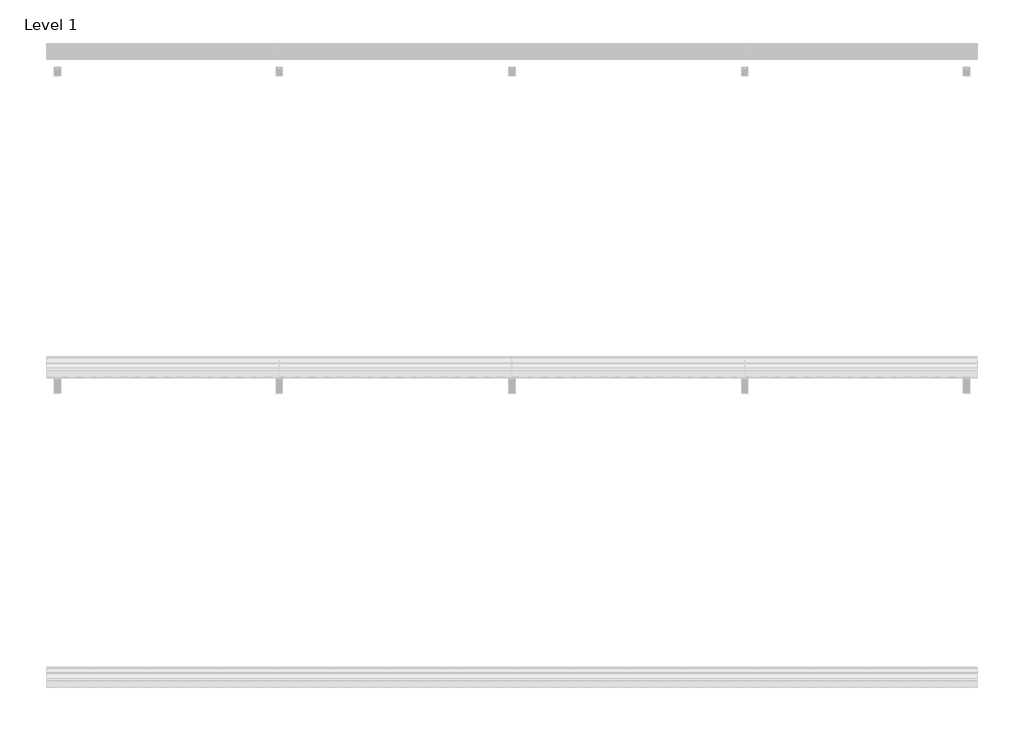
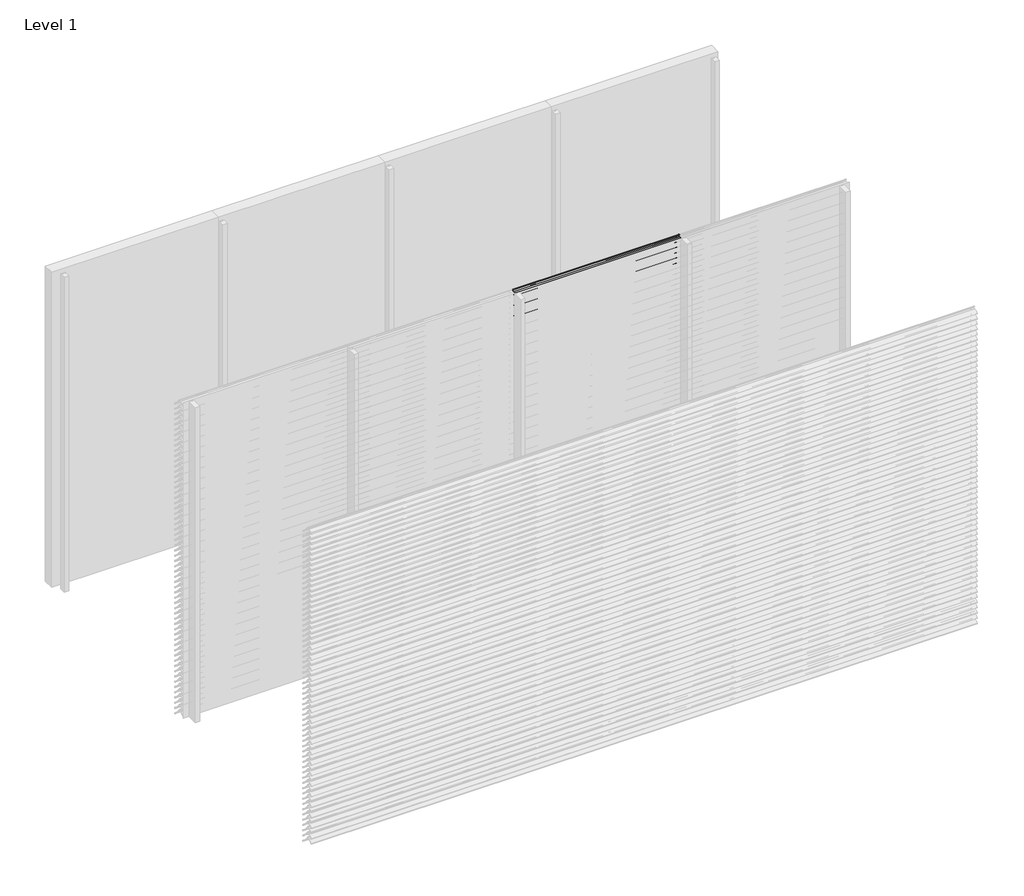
# One storey, part 64 of 173: 18 proxies.
"""IFC4 building model written with IfcOpenShell, lengths in millimetres."""

from ifc_helpers import new_model, si_unit, point, frame, frame_2d, origin, place, context, project, spatial, polyline, circle_curve, trimmed, segment, composite_curve, outline, extrude, element, save

model = new_model("IFC4")

# Units and contexts
model_context = context("Model", 3, world=origin())
ifc_project = project(units=[si_unit("LENGTHUNIT", "METRE", prefix="MILLI")], contexts=[model_context])

# Site, building, storey
site = spatial("IfcSite", under=ifc_project)
building = spatial("IfcBuilding", under=site)
storey = spatial("IfcBuildingStorey", under=building, Name="Level 1", Elevation=0.0)

# Proxies
placement = place(None, origin())
element("IfcBuildingElementProxy", 1, Name="Wall Sweeps", at=placement, inside=storey, context=model_context, shape_type="SweptSolid", body=[
    extrude(outline(composite_curve([segment(polyline([(-35998.0, 559.1474905), (-35998.0, 561.6227417)]), True, "CONTINUOUS"), segment(trimmed(circle_curve(frame_2d((-35951.2682172, 516.2200208)), 65.1557103), [point((-35998.0, 561.6227417))], [point((-35954.4014323, 581.3003524))], False, "CARTESIAN"), True, "CONTINUOUS"), segment(polyline([(-35954.4014323, 581.3003524), (-35934.8315836, 581.3003524)]), True, "CONTINUOUS"), segment(trimmed(circle_curve(frame_2d((-35732.7329489, 728.5533172)), 250.0545817), [point((-35934.8315836, 581.3003524))], [point((-35941.4452143, 590.8344583))], False, "CARTESIAN"), True, "CONTINUOUS"), segment(trimmed(circle_curve(frame_2d((-35953.2981792, 585.1737835)), 13.1352966), [point((-35941.4452143, 590.8344583))], [point((-35953.8171475, 598.298824))], True, "CARTESIAN"), True, "CONTINUOUS"), segment(polyline([(-35953.8171475, 598.298824), (-35953.8171475, 600.0)]), True, "CONTINUOUS"), segment(trimmed(circle_curve(frame_2d((-35953.2981792, 585.1737835)), 14.8352966), [point((-35953.8171475, 600.0))], [point((-35939.9637661, 591.6760487))], False, "CARTESIAN"), True, "CONTINUOUS"), segment(trimmed(circle_curve(frame_2d((-35732.7329489, 728.5533172)), 248.3545817), [point((-35939.9637661, 591.6760487))], [point((-35873.8787895, 524.2059416))], True, "CARTESIAN"), True, "CONTINUOUS"), segment(trimmed(circle_curve(frame_2d((-35883.8147537, 511.6649442)), 16.0), [point((-35873.8787895, 524.2059416))], [point((-35867.8648347, 510.4))], False, "CARTESIAN"), True, "CONTINUOUS"), segment(polyline([(-35867.8648347, 510.4), (-35869.6712069, 510.4)]), True, "CONTINUOUS"), segment(trimmed(circle_curve(frame_2d((-35883.8147537, 511.6649442)), 14.2), [point((-35869.6712069, 510.4))], [point((-35874.9518628, 522.7594998))], True, "CARTESIAN"), True, "CONTINUOUS"), segment(trimmed(circle_curve(frame_2d((-35732.7329489, 728.5533172)), 250.1545817), [point((-35874.9518628, 522.7594998))], [point((-35933.7064024, 579.6003524))], False, "CARTESIAN"), True, "CONTINUOUS"), segment(polyline([(-35933.7064024, 579.6003524), (-35954.3602632, 579.6003524)]), True, "CONTINUOUS"), segment(trimmed(circle_curve(frame_2d((-35951.2682172, 516.2200208)), 63.4557103), [point((-35954.3602632, 579.6003524))], [point((-35998.0, 559.1474905))], True, "CARTESIAN"), True, "CONTINUOUS")], self_intersect=False)), frame((1500.0, 0.0, 0.0), z_axis=(1.0, 0.0, 0.0), x_axis=(0.0, 1.0, 0.0)), (0.0, 0.0, 1.0), 1500.0),
])
element("IfcBuildingElementProxy", 2, Name="Wall Sweeps", at=placement, inside=storey, context=model_context, shape_type="SweptSolid", body=[
    extrude(outline(composite_curve([segment(polyline([(-35998.0, 509.1474905), (-35998.0, 511.6227417)]), True, "CONTINUOUS"), segment(trimmed(circle_curve(frame_2d((-35951.2682172, 466.2200208)), 65.1557103), [point((-35998.0, 511.6227417))], [point((-35954.4014323, 531.3003524))], False, "CARTESIAN"), True, "CONTINUOUS"), segment(polyline([(-35954.4014323, 531.3003524), (-35934.8315836, 531.3003524)]), True, "CONTINUOUS"), segment(trimmed(circle_curve(frame_2d((-35732.7329489, 678.5533172)), 250.0545817), [point((-35934.8315836, 531.3003524))], [point((-35941.4452143, 540.8344583))], False, "CARTESIAN"), True, "CONTINUOUS"), segment(trimmed(circle_curve(frame_2d((-35953.2981792, 535.1737835)), 13.1352966), [point((-35941.4452143, 540.8344583))], [point((-35953.8171475, 548.298824))], True, "CARTESIAN"), True, "CONTINUOUS"), segment(polyline([(-35953.8171475, 548.298824), (-35953.8171475, 550.0)]), True, "CONTINUOUS"), segment(trimmed(circle_curve(frame_2d((-35953.2981792, 535.1737835)), 14.8352966), [point((-35953.8171475, 550.0))], [point((-35939.9637661, 541.6760487))], False, "CARTESIAN"), True, "CONTINUOUS"), segment(trimmed(circle_curve(frame_2d((-35732.7329489, 678.5533172)), 248.3545817), [point((-35939.9637661, 541.6760487))], [point((-35873.8787895, 474.2059416))], True, "CARTESIAN"), True, "CONTINUOUS"), segment(trimmed(circle_curve(frame_2d((-35883.8147537, 461.6649442)), 16.0), [point((-35873.8787895, 474.2059416))], [point((-35867.8648347, 460.4))], False, "CARTESIAN"), True, "CONTINUOUS"), segment(polyline([(-35867.8648347, 460.4), (-35869.6712069, 460.4)]), True, "CONTINUOUS"), segment(trimmed(circle_curve(frame_2d((-35883.8147537, 461.6649442)), 14.2), [point((-35869.6712069, 460.4))], [point((-35874.9518628, 472.7594998))], True, "CARTESIAN"), True, "CONTINUOUS"), segment(trimmed(circle_curve(frame_2d((-35732.7329489, 678.5533172)), 250.1545817), [point((-35874.9518628, 472.7594998))], [point((-35933.7064024, 529.6003524))], False, "CARTESIAN"), True, "CONTINUOUS"), segment(polyline([(-35933.7064024, 529.6003524), (-35954.3602632, 529.6003524)]), True, "CONTINUOUS"), segment(trimmed(circle_curve(frame_2d((-35951.2682172, 466.2200208)), 63.4557103), [point((-35954.3602632, 529.6003524))], [point((-35998.0, 509.1474905))], True, "CARTESIAN"), True, "CONTINUOUS")], self_intersect=False)), frame((1500.0, 0.0, 0.0), z_axis=(1.0, 0.0, 0.0), x_axis=(0.0, 1.0, 0.0)), (0.0, 0.0, 1.0), 1500.0),
])
element("IfcBuildingElementProxy", 3, Name="Wall Sweeps", at=placement, inside=storey, context=model_context, shape_type="SweptSolid", body=[
    extrude(outline(composite_curve([segment(polyline([(-35998.0, 459.1474905), (-35998.0, 461.6227417)]), True, "CONTINUOUS"), segment(trimmed(circle_curve(frame_2d((-35951.2682172, 416.2200208)), 65.1557103), [point((-35998.0, 461.6227417))], [point((-35954.4014323, 481.3003524))], False, "CARTESIAN"), True, "CONTINUOUS"), segment(polyline([(-35954.4014323, 481.3003524), (-35934.8315836, 481.3003524)]), True, "CONTINUOUS"), segment(trimmed(circle_curve(frame_2d((-35732.7329489, 628.5533172)), 250.0545817), [point((-35934.8315836, 481.3003524))], [point((-35941.4452143, 490.8344583))], False, "CARTESIAN"), True, "CONTINUOUS"), segment(trimmed(circle_curve(frame_2d((-35953.2981792, 485.1737835)), 13.1352966), [point((-35941.4452143, 490.8344583))], [point((-35953.8171475, 498.298824))], True, "CARTESIAN"), True, "CONTINUOUS"), segment(polyline([(-35953.8171475, 498.298824), (-35953.8171475, 500.0)]), True, "CONTINUOUS"), segment(trimmed(circle_curve(frame_2d((-35953.2981792, 485.1737835)), 14.8352966), [point((-35953.8171475, 500.0))], [point((-35939.9637661, 491.6760487))], False, "CARTESIAN"), True, "CONTINUOUS"), segment(trimmed(circle_curve(frame_2d((-35732.7329489, 628.5533172)), 248.3545817), [point((-35939.9637661, 491.6760487))], [point((-35873.8787895, 424.2059416))], True, "CARTESIAN"), True, "CONTINUOUS"), segment(trimmed(circle_curve(frame_2d((-35883.8147537, 411.6649442)), 16.0), [point((-35873.8787895, 424.2059416))], [point((-35867.8648347, 410.4))], False, "CARTESIAN"), True, "CONTINUOUS"), segment(polyline([(-35867.8648347, 410.4), (-35869.6712069, 410.4)]), True, "CONTINUOUS"), segment(trimmed(circle_curve(frame_2d((-35883.8147537, 411.6649442)), 14.2), [point((-35869.6712069, 410.4))], [point((-35874.9518628, 422.7594998))], True, "CARTESIAN"), True, "CONTINUOUS"), segment(trimmed(circle_curve(frame_2d((-35732.7329489, 628.5533172)), 250.1545817), [point((-35874.9518628, 422.7594998))], [point((-35933.7064024, 479.6003524))], False, "CARTESIAN"), True, "CONTINUOUS"), segment(polyline([(-35933.7064024, 479.6003524), (-35954.3602632, 479.6003524)]), True, "CONTINUOUS"), segment(trimmed(circle_curve(frame_2d((-35951.2682172, 416.2200208)), 63.4557103), [point((-35954.3602632, 479.6003524))], [point((-35998.0, 459.1474905))], True, "CARTESIAN"), True, "CONTINUOUS")], self_intersect=False)), frame((1500.0, 0.0, 0.0), z_axis=(1.0, 0.0, 0.0), x_axis=(0.0, 1.0, 0.0)), (0.0, 0.0, 1.0), 1500.0),
])
element("IfcBuildingElementProxy", 4, Name="Wall Sweeps", at=placement, inside=storey, context=model_context, shape_type="SweptSolid", body=[
    extrude(outline(composite_curve([segment(polyline([(-35998.0, 409.1474905), (-35998.0, 411.6227417)]), True, "CONTINUOUS"), segment(trimmed(circle_curve(frame_2d((-35951.2682172, 366.2200208)), 65.1557103), [point((-35998.0, 411.6227417))], [point((-35954.4014323, 431.3003524))], False, "CARTESIAN"), True, "CONTINUOUS"), segment(polyline([(-35954.4014323, 431.3003524), (-35934.8315836, 431.3003524)]), True, "CONTINUOUS"), segment(trimmed(circle_curve(frame_2d((-35732.7329489, 578.5533172)), 250.0545817), [point((-35934.8315836, 431.3003524))], [point((-35941.4452143, 440.8344583))], False, "CARTESIAN"), True, "CONTINUOUS"), segment(trimmed(circle_curve(frame_2d((-35953.2981792, 435.1737835)), 13.1352966), [point((-35941.4452143, 440.8344583))], [point((-35953.8171475, 448.298824))], True, "CARTESIAN"), True, "CONTINUOUS"), segment(polyline([(-35953.8171475, 448.298824), (-35953.8171475, 450.0)]), True, "CONTINUOUS"), segment(trimmed(circle_curve(frame_2d((-35953.2981792, 435.1737835)), 14.8352966), [point((-35953.8171475, 450.0))], [point((-35939.9637661, 441.6760487))], False, "CARTESIAN"), True, "CONTINUOUS"), segment(trimmed(circle_curve(frame_2d((-35732.7329489, 578.5533172)), 248.3545817), [point((-35939.9637661, 441.6760487))], [point((-35873.8787895, 374.2059416))], True, "CARTESIAN"), True, "CONTINUOUS"), segment(trimmed(circle_curve(frame_2d((-35883.8147537, 361.6649442)), 16.0), [point((-35873.8787895, 374.2059416))], [point((-35867.8648347, 360.4))], False, "CARTESIAN"), True, "CONTINUOUS"), segment(polyline([(-35867.8648347, 360.4), (-35869.6712069, 360.4)]), True, "CONTINUOUS"), segment(trimmed(circle_curve(frame_2d((-35883.8147537, 361.6649442)), 14.2), [point((-35869.6712069, 360.4))], [point((-35874.9518628, 372.7594998))], True, "CARTESIAN"), True, "CONTINUOUS"), segment(trimmed(circle_curve(frame_2d((-35732.7329489, 578.5533172)), 250.1545817), [point((-35874.9518628, 372.7594998))], [point((-35933.7064024, 429.6003524))], False, "CARTESIAN"), True, "CONTINUOUS"), segment(polyline([(-35933.7064024, 429.6003524), (-35954.3602632, 429.6003524)]), True, "CONTINUOUS"), segment(trimmed(circle_curve(frame_2d((-35951.2682172, 366.2200208)), 63.4557103), [point((-35954.3602632, 429.6003524))], [point((-35998.0, 409.1474905))], True, "CARTESIAN"), True, "CONTINUOUS")], self_intersect=False)), frame((1500.0, 0.0, 0.0), z_axis=(1.0, 0.0, 0.0), x_axis=(0.0, 1.0, 0.0)), (0.0, 0.0, 1.0), 1500.0),
])
element("IfcBuildingElementProxy", 5, Name="Wall Sweeps", at=placement, inside=storey, context=model_context, shape_type="SweptSolid", body=[
    extrude(outline(composite_curve([segment(polyline([(-35998.0, 359.1474905), (-35998.0, 361.6227417)]), True, "CONTINUOUS"), segment(trimmed(circle_curve(frame_2d((-35951.2682172, 316.2200208)), 65.1557103), [point((-35998.0, 361.6227417))], [point((-35954.4014323, 381.3003524))], False, "CARTESIAN"), True, "CONTINUOUS"), segment(polyline([(-35954.4014323, 381.3003524), (-35934.8315836, 381.3003524)]), True, "CONTINUOUS"), segment(trimmed(circle_curve(frame_2d((-35732.7329489, 528.5533172)), 250.0545817), [point((-35934.8315836, 381.3003524))], [point((-35941.4452143, 390.8344583))], False, "CARTESIAN"), True, "CONTINUOUS"), segment(trimmed(circle_curve(frame_2d((-35953.2981792, 385.1737835)), 13.1352966), [point((-35941.4452143, 390.8344583))], [point((-35953.8171475, 398.298824))], True, "CARTESIAN"), True, "CONTINUOUS"), segment(polyline([(-35953.8171475, 398.298824), (-35953.8171475, 400.0)]), True, "CONTINUOUS"), segment(trimmed(circle_curve(frame_2d((-35953.2981792, 385.1737835)), 14.8352966), [point((-35953.8171475, 400.0))], [point((-35939.9637661, 391.6760487))], False, "CARTESIAN"), True, "CONTINUOUS"), segment(trimmed(circle_curve(frame_2d((-35732.7329489, 528.5533172)), 248.3545817), [point((-35939.9637661, 391.6760487))], [point((-35873.8787895, 324.2059416))], True, "CARTESIAN"), True, "CONTINUOUS"), segment(trimmed(circle_curve(frame_2d((-35883.8147537, 311.6649442)), 16.0), [point((-35873.8787895, 324.2059416))], [point((-35867.8648347, 310.4))], False, "CARTESIAN"), True, "CONTINUOUS"), segment(polyline([(-35867.8648347, 310.4), (-35869.6712069, 310.4)]), True, "CONTINUOUS"), segment(trimmed(circle_curve(frame_2d((-35883.8147537, 311.6649442)), 14.2), [point((-35869.6712069, 310.4))], [point((-35874.9518628, 322.7594998))], True, "CARTESIAN"), True, "CONTINUOUS"), segment(trimmed(circle_curve(frame_2d((-35732.7329489, 528.5533172)), 250.1545817), [point((-35874.9518628, 322.7594998))], [point((-35933.7064024, 379.6003524))], False, "CARTESIAN"), True, "CONTINUOUS"), segment(polyline([(-35933.7064024, 379.6003524), (-35954.3602632, 379.6003524)]), True, "CONTINUOUS"), segment(trimmed(circle_curve(frame_2d((-35951.2682172, 316.2200208)), 63.4557103), [point((-35954.3602632, 379.6003524))], [point((-35998.0, 359.1474905))], True, "CARTESIAN"), True, "CONTINUOUS")], self_intersect=False)), frame((1500.0, 0.0, 0.0), z_axis=(1.0, 0.0, 0.0), x_axis=(0.0, 1.0, 0.0)), (0.0, 0.0, 1.0), 1500.0),
])
element("IfcBuildingElementProxy", 6, Name="Wall Sweeps", at=placement, inside=storey, context=model_context, shape_type="SweptSolid", body=[
    extrude(outline(composite_curve([segment(polyline([(-35998.0, 309.1474905), (-35998.0, 311.6227417)]), True, "CONTINUOUS"), segment(trimmed(circle_curve(frame_2d((-35951.2682172, 266.2200208)), 65.1557103), [point((-35998.0, 311.6227417))], [point((-35954.4014323, 331.3003524))], False, "CARTESIAN"), True, "CONTINUOUS"), segment(polyline([(-35954.4014323, 331.3003524), (-35934.8315836, 331.3003524)]), True, "CONTINUOUS"), segment(trimmed(circle_curve(frame_2d((-35732.7329489, 478.5533172)), 250.0545817), [point((-35934.8315836, 331.3003524))], [point((-35941.4452143, 340.8344583))], False, "CARTESIAN"), True, "CONTINUOUS"), segment(trimmed(circle_curve(frame_2d((-35953.2981792, 335.1737835)), 13.1352966), [point((-35941.4452143, 340.8344583))], [point((-35953.8171475, 348.298824))], True, "CARTESIAN"), True, "CONTINUOUS"), segment(polyline([(-35953.8171475, 348.298824), (-35953.8171475, 350.0)]), True, "CONTINUOUS"), segment(trimmed(circle_curve(frame_2d((-35953.2981792, 335.1737835)), 14.8352966), [point((-35953.8171475, 350.0))], [point((-35939.9637661, 341.6760487))], False, "CARTESIAN"), True, "CONTINUOUS"), segment(trimmed(circle_curve(frame_2d((-35732.7329489, 478.5533172)), 248.3545817), [point((-35939.9637661, 341.6760487))], [point((-35873.8787895, 274.2059416))], True, "CARTESIAN"), True, "CONTINUOUS"), segment(trimmed(circle_curve(frame_2d((-35883.8147537, 261.6649442)), 16.0), [point((-35873.8787895, 274.2059416))], [point((-35867.8648347, 260.4))], False, "CARTESIAN"), True, "CONTINUOUS"), segment(polyline([(-35867.8648347, 260.4), (-35869.6712069, 260.4)]), True, "CONTINUOUS"), segment(trimmed(circle_curve(frame_2d((-35883.8147537, 261.6649442)), 14.2), [point((-35869.6712069, 260.4))], [point((-35874.9518628, 272.7594998))], True, "CARTESIAN"), True, "CONTINUOUS"), segment(trimmed(circle_curve(frame_2d((-35732.7329489, 478.5533172)), 250.1545817), [point((-35874.9518628, 272.7594998))], [point((-35933.7064024, 329.6003524))], False, "CARTESIAN"), True, "CONTINUOUS"), segment(polyline([(-35933.7064024, 329.6003524), (-35954.3602632, 329.6003524)]), True, "CONTINUOUS"), segment(trimmed(circle_curve(frame_2d((-35951.2682172, 266.2200208)), 63.4557103), [point((-35954.3602632, 329.6003524))], [point((-35998.0, 309.1474905))], True, "CARTESIAN"), True, "CONTINUOUS")], self_intersect=False)), frame((1500.0, 0.0, 0.0), z_axis=(1.0, 0.0, 0.0), x_axis=(0.0, 1.0, 0.0)), (0.0, 0.0, 1.0), 1500.0),
])
element("IfcBuildingElementProxy", 7, Name="Wall Sweeps", at=placement, inside=storey, context=model_context, shape_type="SweptSolid", body=[
    extrude(outline(composite_curve([segment(polyline([(-35998.0, 259.1474905), (-35998.0, 261.6227417)]), True, "CONTINUOUS"), segment(trimmed(circle_curve(frame_2d((-35951.2682172, 216.2200208)), 65.1557103), [point((-35998.0, 261.6227417))], [point((-35954.4014323, 281.3003524))], False, "CARTESIAN"), True, "CONTINUOUS"), segment(polyline([(-35954.4014323, 281.3003524), (-35934.8315836, 281.3003524)]), True, "CONTINUOUS"), segment(trimmed(circle_curve(frame_2d((-35732.7329489, 428.5533172)), 250.0545817), [point((-35934.8315836, 281.3003524))], [point((-35941.4452143, 290.8344583))], False, "CARTESIAN"), True, "CONTINUOUS"), segment(trimmed(circle_curve(frame_2d((-35953.2981792, 285.1737835)), 13.1352966), [point((-35941.4452143, 290.8344583))], [point((-35953.8171475, 298.298824))], True, "CARTESIAN"), True, "CONTINUOUS"), segment(polyline([(-35953.8171475, 298.298824), (-35953.8171475, 300.0)]), True, "CONTINUOUS"), segment(trimmed(circle_curve(frame_2d((-35953.2981792, 285.1737835)), 14.8352966), [point((-35953.8171475, 300.0))], [point((-35939.9637661, 291.6760487))], False, "CARTESIAN"), True, "CONTINUOUS"), segment(trimmed(circle_curve(frame_2d((-35732.7329489, 428.5533172)), 248.3545817), [point((-35939.9637661, 291.6760487))], [point((-35873.8787895, 224.2059416))], True, "CARTESIAN"), True, "CONTINUOUS"), segment(trimmed(circle_curve(frame_2d((-35883.8147537, 211.6649442)), 16.0), [point((-35873.8787895, 224.2059416))], [point((-35867.8648347, 210.4))], False, "CARTESIAN"), True, "CONTINUOUS"), segment(polyline([(-35867.8648347, 210.4), (-35869.6712069, 210.4)]), True, "CONTINUOUS"), segment(trimmed(circle_curve(frame_2d((-35883.8147537, 211.6649442)), 14.2), [point((-35869.6712069, 210.4))], [point((-35874.9518628, 222.7594998))], True, "CARTESIAN"), True, "CONTINUOUS"), segment(trimmed(circle_curve(frame_2d((-35732.7329489, 428.5533172)), 250.1545817), [point((-35874.9518628, 222.7594998))], [point((-35933.7064024, 279.6003524))], False, "CARTESIAN"), True, "CONTINUOUS"), segment(polyline([(-35933.7064024, 279.6003524), (-35954.3602632, 279.6003524)]), True, "CONTINUOUS"), segment(trimmed(circle_curve(frame_2d((-35951.2682172, 216.2200208)), 63.4557103), [point((-35954.3602632, 279.6003524))], [point((-35998.0, 259.1474905))], True, "CARTESIAN"), True, "CONTINUOUS")], self_intersect=False)), frame((1500.0, 0.0, 0.0), z_axis=(1.0, 0.0, 0.0), x_axis=(0.0, 1.0, 0.0)), (0.0, 0.0, 1.0), 1500.0),
])
element("IfcBuildingElementProxy", 8, Name="Wall Sweeps", at=placement, inside=storey, context=model_context, shape_type="SweptSolid", body=[
    extrude(outline(composite_curve([segment(polyline([(-35998.0, 209.1474905), (-35998.0, 211.6227417)]), True, "CONTINUOUS"), segment(trimmed(circle_curve(frame_2d((-35951.2682172, 166.2200208)), 65.1557103), [point((-35998.0, 211.6227417))], [point((-35954.4014323, 231.3003524))], False, "CARTESIAN"), True, "CONTINUOUS"), segment(polyline([(-35954.4014323, 231.3003524), (-35934.8315836, 231.3003524)]), True, "CONTINUOUS"), segment(trimmed(circle_curve(frame_2d((-35732.7329489, 378.5533172)), 250.0545817), [point((-35934.8315836, 231.3003524))], [point((-35941.4452143, 240.8344583))], False, "CARTESIAN"), True, "CONTINUOUS"), segment(trimmed(circle_curve(frame_2d((-35953.2981792, 235.1737835)), 13.1352966), [point((-35941.4452143, 240.8344583))], [point((-35953.8171475, 248.298824))], True, "CARTESIAN"), True, "CONTINUOUS"), segment(polyline([(-35953.8171475, 248.298824), (-35953.8171475, 250.0)]), True, "CONTINUOUS"), segment(trimmed(circle_curve(frame_2d((-35953.2981792, 235.1737835)), 14.8352966), [point((-35953.8171475, 250.0))], [point((-35939.9637661, 241.6760487))], False, "CARTESIAN"), True, "CONTINUOUS"), segment(trimmed(circle_curve(frame_2d((-35732.7329489, 378.5533172)), 248.3545817), [point((-35939.9637661, 241.6760487))], [point((-35873.8787895, 174.2059416))], True, "CARTESIAN"), True, "CONTINUOUS"), segment(trimmed(circle_curve(frame_2d((-35883.8147537, 161.6649442)), 16.0), [point((-35873.8787895, 174.2059416))], [point((-35867.8648347, 160.4))], False, "CARTESIAN"), True, "CONTINUOUS"), segment(polyline([(-35867.8648347, 160.4), (-35869.6712069, 160.4)]), True, "CONTINUOUS"), segment(trimmed(circle_curve(frame_2d((-35883.8147537, 161.6649442)), 14.2), [point((-35869.6712069, 160.4))], [point((-35874.9518628, 172.7594998))], True, "CARTESIAN"), True, "CONTINUOUS"), segment(trimmed(circle_curve(frame_2d((-35732.7329489, 378.5533172)), 250.1545817), [point((-35874.9518628, 172.7594998))], [point((-35933.7064024, 229.6003524))], False, "CARTESIAN"), True, "CONTINUOUS"), segment(polyline([(-35933.7064024, 229.6003524), (-35954.3602632, 229.6003524)]), True, "CONTINUOUS"), segment(trimmed(circle_curve(frame_2d((-35951.2682172, 166.2200208)), 63.4557103), [point((-35954.3602632, 229.6003524))], [point((-35998.0, 209.1474905))], True, "CARTESIAN"), True, "CONTINUOUS")], self_intersect=False)), frame((1500.0, 0.0, 0.0), z_axis=(1.0, 0.0, 0.0), x_axis=(0.0, 1.0, 0.0)), (0.0, 0.0, 1.0), 1500.0),
])
element("IfcBuildingElementProxy", 9, Name="Wall Sweeps", at=placement, inside=storey, context=model_context, shape_type="SweptSolid", body=[
    extrude(outline(composite_curve([segment(polyline([(-35998.0, 159.1474905), (-35998.0, 161.6227417)]), True, "CONTINUOUS"), segment(trimmed(circle_curve(frame_2d((-35951.2682172, 116.2200208)), 65.1557103), [point((-35998.0, 161.6227417))], [point((-35954.4014323, 181.3003524))], False, "CARTESIAN"), True, "CONTINUOUS"), segment(polyline([(-35954.4014323, 181.3003524), (-35934.8315836, 181.3003524)]), True, "CONTINUOUS"), segment(trimmed(circle_curve(frame_2d((-35732.7329489, 328.5533172)), 250.0545817), [point((-35934.8315836, 181.3003524))], [point((-35941.4452143, 190.8344583))], False, "CARTESIAN"), True, "CONTINUOUS"), segment(trimmed(circle_curve(frame_2d((-35953.2981792, 185.1737835)), 13.1352966), [point((-35941.4452143, 190.8344583))], [point((-35953.8171475, 198.298824))], True, "CARTESIAN"), True, "CONTINUOUS"), segment(polyline([(-35953.8171475, 198.298824), (-35953.8171475, 200.0)]), True, "CONTINUOUS"), segment(trimmed(circle_curve(frame_2d((-35953.2981792, 185.1737835)), 14.8352966), [point((-35953.8171475, 200.0))], [point((-35939.9637661, 191.6760487))], False, "CARTESIAN"), True, "CONTINUOUS"), segment(trimmed(circle_curve(frame_2d((-35732.7329489, 328.5533172)), 248.3545817), [point((-35939.9637661, 191.6760487))], [point((-35873.8787895, 124.2059416))], True, "CARTESIAN"), True, "CONTINUOUS"), segment(trimmed(circle_curve(frame_2d((-35883.8147537, 111.6649442)), 16.0), [point((-35873.8787895, 124.2059416))], [point((-35867.8648347, 110.4))], False, "CARTESIAN"), True, "CONTINUOUS"), segment(polyline([(-35867.8648347, 110.4), (-35869.6712069, 110.4)]), True, "CONTINUOUS"), segment(trimmed(circle_curve(frame_2d((-35883.8147537, 111.6649442)), 14.2), [point((-35869.6712069, 110.4))], [point((-35874.9518628, 122.7594998))], True, "CARTESIAN"), True, "CONTINUOUS"), segment(trimmed(circle_curve(frame_2d((-35732.7329489, 328.5533172)), 250.1545817), [point((-35874.9518628, 122.7594998))], [point((-35933.7064024, 179.6003524))], False, "CARTESIAN"), True, "CONTINUOUS"), segment(polyline([(-35933.7064024, 179.6003524), (-35954.3602632, 179.6003524)]), True, "CONTINUOUS"), segment(trimmed(circle_curve(frame_2d((-35951.2682172, 116.2200208)), 63.4557103), [point((-35954.3602632, 179.6003524))], [point((-35998.0, 159.1474905))], True, "CARTESIAN"), True, "CONTINUOUS")], self_intersect=False)), frame((1500.0, 0.0, 0.0), z_axis=(1.0, 0.0, 0.0), x_axis=(0.0, 1.0, 0.0)), (0.0, 0.0, 1.0), 1500.0),
])
element("IfcBuildingElementProxy", 10, Name="Wall Sweeps", at=placement, inside=storey, context=model_context, shape_type="SweptSolid", body=[
    extrude(outline(composite_curve([segment(polyline([(-35998.0, 109.1474905), (-35998.0, 111.6227417)]), True, "CONTINUOUS"), segment(trimmed(circle_curve(frame_2d((-35951.2682172, 66.2200208)), 65.1557103), [point((-35998.0, 111.6227417))], [point((-35954.4014323, 131.3003524))], False, "CARTESIAN"), True, "CONTINUOUS"), segment(polyline([(-35954.4014323, 131.3003524), (-35934.8315836, 131.3003524)]), True, "CONTINUOUS"), segment(trimmed(circle_curve(frame_2d((-35732.7329489, 278.5533172)), 250.0545817), [point((-35934.8315836, 131.3003524))], [point((-35941.4452143, 140.8344583))], False, "CARTESIAN"), True, "CONTINUOUS"), segment(trimmed(circle_curve(frame_2d((-35953.2981792, 135.1737835)), 13.1352966), [point((-35941.4452143, 140.8344583))], [point((-35953.8171475, 148.298824))], True, "CARTESIAN"), True, "CONTINUOUS"), segment(polyline([(-35953.8171475, 148.298824), (-35953.8171475, 150.0)]), True, "CONTINUOUS"), segment(trimmed(circle_curve(frame_2d((-35953.2981792, 135.1737835)), 14.8352966), [point((-35953.8171475, 150.0))], [point((-35939.9637661, 141.6760487))], False, "CARTESIAN"), True, "CONTINUOUS"), segment(trimmed(circle_curve(frame_2d((-35732.7329489, 278.5533172)), 248.3545817), [point((-35939.9637661, 141.6760487))], [point((-35873.8787895, 74.2059416))], True, "CARTESIAN"), True, "CONTINUOUS"), segment(trimmed(circle_curve(frame_2d((-35883.8147537, 61.6649442)), 16.0), [point((-35873.8787895, 74.2059416))], [point((-35867.8648347, 60.4))], False, "CARTESIAN"), True, "CONTINUOUS"), segment(polyline([(-35867.8648347, 60.4), (-35869.6712069, 60.4)]), True, "CONTINUOUS"), segment(trimmed(circle_curve(frame_2d((-35883.8147537, 61.6649442)), 14.2), [point((-35869.6712069, 60.4))], [point((-35874.9518628, 72.7594998))], True, "CARTESIAN"), True, "CONTINUOUS"), segment(trimmed(circle_curve(frame_2d((-35732.7329489, 278.5533172)), 250.1545817), [point((-35874.9518628, 72.7594998))], [point((-35933.7064024, 129.6003524))], False, "CARTESIAN"), True, "CONTINUOUS"), segment(polyline([(-35933.7064024, 129.6003524), (-35954.3602632, 129.6003524)]), True, "CONTINUOUS"), segment(trimmed(circle_curve(frame_2d((-35951.2682172, 66.2200208)), 63.4557103), [point((-35954.3602632, 129.6003524))], [point((-35998.0, 109.1474905))], True, "CARTESIAN"), True, "CONTINUOUS")], self_intersect=False)), frame((1500.0, 0.0, 0.0), z_axis=(1.0, 0.0, 0.0), x_axis=(0.0, 1.0, 0.0)), (0.0, 0.0, 1.0), 1500.0),
])
element("IfcBuildingElementProxy", 11, Name="Wall Sweeps", at=placement, inside=storey, context=model_context, shape_type="SweptSolid", body=[
    extrude(outline(composite_curve([segment(polyline([(-35998.0, 59.1474905), (-35998.0, 61.6227417)]), True, "CONTINUOUS"), segment(trimmed(circle_curve(frame_2d((-35951.2682172, 16.2200208)), 65.1557103), [point((-35998.0, 61.6227417))], [point((-35954.4014323, 81.3003524))], False, "CARTESIAN"), True, "CONTINUOUS"), segment(polyline([(-35954.4014323, 81.3003524), (-35934.8315836, 81.3003524)]), True, "CONTINUOUS"), segment(trimmed(circle_curve(frame_2d((-35732.7329489, 228.5533172)), 250.0545817), [point((-35934.8315836, 81.3003524))], [point((-35941.4452143, 90.8344583))], False, "CARTESIAN"), True, "CONTINUOUS"), segment(trimmed(circle_curve(frame_2d((-35953.2981792, 85.1737835)), 13.1352966), [point((-35941.4452143, 90.8344583))], [point((-35953.8171475, 98.298824))], True, "CARTESIAN"), True, "CONTINUOUS"), segment(polyline([(-35953.8171475, 98.298824), (-35953.8171475, 100.0)]), True, "CONTINUOUS"), segment(trimmed(circle_curve(frame_2d((-35953.2981792, 85.1737835)), 14.8352966), [point((-35953.8171475, 100.0))], [point((-35939.9637661, 91.6760487))], False, "CARTESIAN"), True, "CONTINUOUS"), segment(trimmed(circle_curve(frame_2d((-35732.7329489, 228.5533172)), 248.3545817), [point((-35939.9637661, 91.6760487))], [point((-35873.8787895, 24.2059416))], True, "CARTESIAN"), True, "CONTINUOUS"), segment(trimmed(circle_curve(frame_2d((-35883.8147537, 11.6649442)), 16.0), [point((-35873.8787895, 24.2059416))], [point((-35867.8648347, 10.4))], False, "CARTESIAN"), True, "CONTINUOUS"), segment(polyline([(-35867.8648347, 10.4), (-35869.6712069, 10.4)]), True, "CONTINUOUS"), segment(trimmed(circle_curve(frame_2d((-35883.8147537, 11.6649442)), 14.2), [point((-35869.6712069, 10.4))], [point((-35874.9518628, 22.7594998))], True, "CARTESIAN"), True, "CONTINUOUS"), segment(trimmed(circle_curve(frame_2d((-35732.7329489, 228.5533172)), 250.1545817), [point((-35874.9518628, 22.7594998))], [point((-35933.7064024, 79.6003524))], False, "CARTESIAN"), True, "CONTINUOUS"), segment(polyline([(-35933.7064024, 79.6003524), (-35954.3602632, 79.6003524)]), True, "CONTINUOUS"), segment(trimmed(circle_curve(frame_2d((-35951.2682172, 16.2200208)), 63.4557103), [point((-35954.3602632, 79.6003524))], [point((-35998.0, 59.1474905))], True, "CARTESIAN"), True, "CONTINUOUS")], self_intersect=False)), frame((1500.0, 0.0, 0.0), z_axis=(1.0, 0.0, 0.0), x_axis=(0.0, 1.0, 0.0)), (0.0, 0.0, 1.0), 1500.0),
])
element("IfcBuildingElementProxy", 12, Name="Wall Sweeps", at=placement, inside=storey, context=model_context, shape_type="SweptSolid", body=[
    extrude(outline(composite_curve([segment(polyline([(-35998.0, 9.1474905), (-35998.0, 11.6227417)]), True, "CONTINUOUS"), segment(trimmed(circle_curve(frame_2d((-35951.2682172, -33.7799792)), 65.1557103), [point((-35998.0, 11.6227417))], [point((-35954.4014323, 31.3003524))], False, "CARTESIAN"), True, "CONTINUOUS"), segment(polyline([(-35954.4014323, 31.3003524), (-35934.8315836, 31.3003524)]), True, "CONTINUOUS"), segment(trimmed(circle_curve(frame_2d((-35732.7329489, 178.5533172)), 250.0545817), [point((-35934.8315836, 31.3003524))], [point((-35941.4452143, 40.8344583))], False, "CARTESIAN"), True, "CONTINUOUS"), segment(trimmed(circle_curve(frame_2d((-35953.2981792, 35.1737835)), 13.1352966), [point((-35941.4452143, 40.8344583))], [point((-35953.8171475, 48.298824))], True, "CARTESIAN"), True, "CONTINUOUS"), segment(polyline([(-35953.8171475, 48.298824), (-35953.8171475, 50.0)]), True, "CONTINUOUS"), segment(trimmed(circle_curve(frame_2d((-35953.2981792, 35.1737835)), 14.8352966), [point((-35953.8171475, 50.0))], [point((-35939.9637661, 41.6760487))], False, "CARTESIAN"), True, "CONTINUOUS"), segment(trimmed(circle_curve(frame_2d((-35732.7329489, 178.5533172)), 248.3545817), [point((-35939.9637661, 41.6760487))], [point((-35873.8787895, -25.7940584))], True, "CARTESIAN"), True, "CONTINUOUS"), segment(trimmed(circle_curve(frame_2d((-35883.8147537, -38.3350558)), 16.0), [point((-35873.8787895, -25.7940584))], [point((-35867.8648347, -39.6))], False, "CARTESIAN"), True, "CONTINUOUS"), segment(polyline([(-35867.8648347, -39.6), (-35869.6712069, -39.6)]), True, "CONTINUOUS"), segment(trimmed(circle_curve(frame_2d((-35883.8147537, -38.3350558)), 14.2), [point((-35869.6712069, -39.6))], [point((-35874.9518628, -27.2405002))], True, "CARTESIAN"), True, "CONTINUOUS"), segment(trimmed(circle_curve(frame_2d((-35732.7329489, 178.5533172)), 250.1545817), [point((-35874.9518628, -27.2405002))], [point((-35933.7064024, 29.6003524))], False, "CARTESIAN"), True, "CONTINUOUS"), segment(polyline([(-35933.7064024, 29.6003524), (-35954.3602632, 29.6003524)]), True, "CONTINUOUS"), segment(trimmed(circle_curve(frame_2d((-35951.2682172, -33.7799792)), 63.4557103), [point((-35954.3602632, 29.6003524))], [point((-35998.0, 9.1474905))], True, "CARTESIAN"), True, "CONTINUOUS")], self_intersect=False)), frame((1500.0, 0.0, 0.0), z_axis=(1.0, 0.0, 0.0), x_axis=(0.0, 1.0, 0.0)), (0.0, 0.0, 1.0), 1500.0),
])
element("IfcBuildingElementProxy", 13, Name="Wall Sweeps", at=placement, inside=storey, context=model_context, shape_type="SweptSolid", body=[
    extrude(outline(composite_curve([segment(polyline([(-35998.0, 2959.1474905), (-35998.0, 2961.6227417)]), True, "CONTINUOUS"), segment(trimmed(circle_curve(frame_2d((-35951.2682172, 2916.2200208)), 65.1557103), [point((-35998.0, 2961.6227417))], [point((-35954.4014323, 2981.3003524))], False, "CARTESIAN"), True, "CONTINUOUS"), segment(polyline([(-35954.4014323, 2981.3003524), (-35934.8315836, 2981.3003524)]), True, "CONTINUOUS"), segment(trimmed(circle_curve(frame_2d((-35732.7329489, 3128.5533172)), 250.0545817), [point((-35934.8315836, 2981.3003524))], [point((-35941.4452143, 2990.8344583))], False, "CARTESIAN"), True, "CONTINUOUS"), segment(trimmed(circle_curve(frame_2d((-35953.2981792, 2985.1737835)), 13.1352966), [point((-35941.4452143, 2990.8344583))], [point((-35953.8171475, 2998.298824))], True, "CARTESIAN"), True, "CONTINUOUS"), segment(polyline([(-35953.8171475, 2998.298824), (-35953.8171475, 3000.0)]), True, "CONTINUOUS"), segment(trimmed(circle_curve(frame_2d((-35953.2981792, 2985.1737835)), 14.8352966), [point((-35953.8171475, 3000.0))], [point((-35939.9637661, 2991.6760487))], False, "CARTESIAN"), True, "CONTINUOUS"), segment(trimmed(circle_curve(frame_2d((-35732.7329489, 3128.5533172)), 248.3545817), [point((-35939.9637661, 2991.6760487))], [point((-35873.8787895, 2924.2059416))], True, "CARTESIAN"), True, "CONTINUOUS"), segment(trimmed(circle_curve(frame_2d((-35883.8147537, 2911.6649442)), 16.0), [point((-35873.8787895, 2924.2059416))], [point((-35867.8648347, 2910.4))], False, "CARTESIAN"), True, "CONTINUOUS"), segment(polyline([(-35867.8648347, 2910.4), (-35869.6712069, 2910.4)]), True, "CONTINUOUS"), segment(trimmed(circle_curve(frame_2d((-35883.8147537, 2911.6649442)), 14.2), [point((-35869.6712069, 2910.4))], [point((-35874.9518628, 2922.7594998))], True, "CARTESIAN"), True, "CONTINUOUS"), segment(trimmed(circle_curve(frame_2d((-35732.7329489, 3128.5533172)), 250.1545817), [point((-35874.9518628, 2922.7594998))], [point((-35933.7064024, 2979.6003524))], False, "CARTESIAN"), True, "CONTINUOUS"), segment(polyline([(-35933.7064024, 2979.6003524), (-35954.3602632, 2979.6003524)]), True, "CONTINUOUS"), segment(trimmed(circle_curve(frame_2d((-35951.2682172, 2916.2200208)), 63.4557103), [point((-35954.3602632, 2979.6003524))], [point((-35998.0, 2959.1474905))], True, "CARTESIAN"), True, "CONTINUOUS")], self_intersect=False)), frame((3000.0, 0.0, 0.0), z_axis=(1.0, 0.0, 0.0), x_axis=(0.0, 1.0, 0.0)), (0.0, 0.0, 1.0), 1500.0),
])
element("IfcBuildingElementProxy", 14, Name="Wall Sweeps", at=placement, inside=storey, context=model_context, shape_type="SweptSolid", body=[
    extrude(outline(composite_curve([segment(polyline([(-35998.0, 2909.1474905), (-35998.0, 2911.6227417)]), True, "CONTINUOUS"), segment(trimmed(circle_curve(frame_2d((-35951.2682172, 2866.2200208)), 65.1557103), [point((-35998.0, 2911.6227417))], [point((-35954.4014323, 2931.3003524))], False, "CARTESIAN"), True, "CONTINUOUS"), segment(polyline([(-35954.4014323, 2931.3003524), (-35934.8315836, 2931.3003524)]), True, "CONTINUOUS"), segment(trimmed(circle_curve(frame_2d((-35732.7329489, 3078.5533172)), 250.0545817), [point((-35934.8315836, 2931.3003524))], [point((-35941.4452143, 2940.8344583))], False, "CARTESIAN"), True, "CONTINUOUS"), segment(trimmed(circle_curve(frame_2d((-35953.2981792, 2935.1737835)), 13.1352966), [point((-35941.4452143, 2940.8344583))], [point((-35953.8171475, 2948.298824))], True, "CARTESIAN"), True, "CONTINUOUS"), segment(polyline([(-35953.8171475, 2948.298824), (-35953.8171475, 2950.0)]), True, "CONTINUOUS"), segment(trimmed(circle_curve(frame_2d((-35953.2981792, 2935.1737835)), 14.8352966), [point((-35953.8171475, 2950.0))], [point((-35939.9637661, 2941.6760487))], False, "CARTESIAN"), True, "CONTINUOUS"), segment(trimmed(circle_curve(frame_2d((-35732.7329489, 3078.5533172)), 248.3545817), [point((-35939.9637661, 2941.6760487))], [point((-35873.8787895, 2874.2059416))], True, "CARTESIAN"), True, "CONTINUOUS"), segment(trimmed(circle_curve(frame_2d((-35883.8147537, 2861.6649442)), 16.0), [point((-35873.8787895, 2874.2059416))], [point((-35867.8648347, 2860.4))], False, "CARTESIAN"), True, "CONTINUOUS"), segment(polyline([(-35867.8648347, 2860.4), (-35869.6712069, 2860.4)]), True, "CONTINUOUS"), segment(trimmed(circle_curve(frame_2d((-35883.8147537, 2861.6649442)), 14.2), [point((-35869.6712069, 2860.4))], [point((-35874.9518628, 2872.7594998))], True, "CARTESIAN"), True, "CONTINUOUS"), segment(trimmed(circle_curve(frame_2d((-35732.7329489, 3078.5533172)), 250.1545817), [point((-35874.9518628, 2872.7594998))], [point((-35933.7064024, 2929.6003524))], False, "CARTESIAN"), True, "CONTINUOUS"), segment(polyline([(-35933.7064024, 2929.6003524), (-35954.3602632, 2929.6003524)]), True, "CONTINUOUS"), segment(trimmed(circle_curve(frame_2d((-35951.2682172, 2866.2200208)), 63.4557103), [point((-35954.3602632, 2929.6003524))], [point((-35998.0, 2909.1474905))], True, "CARTESIAN"), True, "CONTINUOUS")], self_intersect=False)), frame((3000.0, 0.0, 0.0), z_axis=(1.0, 0.0, 0.0), x_axis=(0.0, 1.0, 0.0)), (0.0, 0.0, 1.0), 1500.0),
])
element("IfcBuildingElementProxy", 15, Name="Wall Sweeps", at=placement, inside=storey, context=model_context, shape_type="SweptSolid", body=[
    extrude(outline(composite_curve([segment(polyline([(-35998.0, 2859.1474905), (-35998.0, 2861.6227417)]), True, "CONTINUOUS"), segment(trimmed(circle_curve(frame_2d((-35951.2682172, 2816.2200208)), 65.1557103), [point((-35998.0, 2861.6227417))], [point((-35954.4014323, 2881.3003524))], False, "CARTESIAN"), True, "CONTINUOUS"), segment(polyline([(-35954.4014323, 2881.3003524), (-35934.8315836, 2881.3003524)]), True, "CONTINUOUS"), segment(trimmed(circle_curve(frame_2d((-35732.7329489, 3028.5533172)), 250.0545817), [point((-35934.8315836, 2881.3003524))], [point((-35941.4452143, 2890.8344583))], False, "CARTESIAN"), True, "CONTINUOUS"), segment(trimmed(circle_curve(frame_2d((-35953.2981792, 2885.1737835)), 13.1352966), [point((-35941.4452143, 2890.8344583))], [point((-35953.8171475, 2898.298824))], True, "CARTESIAN"), True, "CONTINUOUS"), segment(polyline([(-35953.8171475, 2898.298824), (-35953.8171475, 2900.0)]), True, "CONTINUOUS"), segment(trimmed(circle_curve(frame_2d((-35953.2981792, 2885.1737835)), 14.8352966), [point((-35953.8171475, 2900.0))], [point((-35939.9637661, 2891.6760487))], False, "CARTESIAN"), True, "CONTINUOUS"), segment(trimmed(circle_curve(frame_2d((-35732.7329489, 3028.5533172)), 248.3545817), [point((-35939.9637661, 2891.6760487))], [point((-35873.8787895, 2824.2059416))], True, "CARTESIAN"), True, "CONTINUOUS"), segment(trimmed(circle_curve(frame_2d((-35883.8147537, 2811.6649442)), 16.0), [point((-35873.8787895, 2824.2059416))], [point((-35867.8648347, 2810.4))], False, "CARTESIAN"), True, "CONTINUOUS"), segment(polyline([(-35867.8648347, 2810.4), (-35869.6712069, 2810.4)]), True, "CONTINUOUS"), segment(trimmed(circle_curve(frame_2d((-35883.8147537, 2811.6649442)), 14.2), [point((-35869.6712069, 2810.4))], [point((-35874.9518628, 2822.7594998))], True, "CARTESIAN"), True, "CONTINUOUS"), segment(trimmed(circle_curve(frame_2d((-35732.7329489, 3028.5533172)), 250.1545817), [point((-35874.9518628, 2822.7594998))], [point((-35933.7064024, 2879.6003524))], False, "CARTESIAN"), True, "CONTINUOUS"), segment(polyline([(-35933.7064024, 2879.6003524), (-35954.3602632, 2879.6003524)]), True, "CONTINUOUS"), segment(trimmed(circle_curve(frame_2d((-35951.2682172, 2816.2200208)), 63.4557103), [point((-35954.3602632, 2879.6003524))], [point((-35998.0, 2859.1474905))], True, "CARTESIAN"), True, "CONTINUOUS")], self_intersect=False)), frame((3000.0, 0.0, 0.0), z_axis=(1.0, 0.0, 0.0), x_axis=(0.0, 1.0, 0.0)), (0.0, 0.0, 1.0), 1500.0),
])
element("IfcBuildingElementProxy", 16, Name="Wall Sweeps", at=placement, inside=storey, context=model_context, shape_type="SweptSolid", body=[
    extrude(outline(composite_curve([segment(polyline([(-35998.0, 2809.1474905), (-35998.0, 2811.6227417)]), True, "CONTINUOUS"), segment(trimmed(circle_curve(frame_2d((-35951.2682172, 2766.2200208)), 65.1557103), [point((-35998.0, 2811.6227417))], [point((-35954.4014323, 2831.3003524))], False, "CARTESIAN"), True, "CONTINUOUS"), segment(polyline([(-35954.4014323, 2831.3003524), (-35934.8315836, 2831.3003524)]), True, "CONTINUOUS"), segment(trimmed(circle_curve(frame_2d((-35732.7329489, 2978.5533172)), 250.0545817), [point((-35934.8315836, 2831.3003524))], [point((-35941.4452143, 2840.8344583))], False, "CARTESIAN"), True, "CONTINUOUS"), segment(trimmed(circle_curve(frame_2d((-35953.2981792, 2835.1737835)), 13.1352966), [point((-35941.4452143, 2840.8344583))], [point((-35953.8171475, 2848.298824))], True, "CARTESIAN"), True, "CONTINUOUS"), segment(polyline([(-35953.8171475, 2848.298824), (-35953.8171475, 2850.0)]), True, "CONTINUOUS"), segment(trimmed(circle_curve(frame_2d((-35953.2981792, 2835.1737835)), 14.8352966), [point((-35953.8171475, 2850.0))], [point((-35939.9637661, 2841.6760487))], False, "CARTESIAN"), True, "CONTINUOUS"), segment(trimmed(circle_curve(frame_2d((-35732.7329489, 2978.5533172)), 248.3545817), [point((-35939.9637661, 2841.6760487))], [point((-35873.8787895, 2774.2059416))], True, "CARTESIAN"), True, "CONTINUOUS"), segment(trimmed(circle_curve(frame_2d((-35883.8147537, 2761.6649442)), 16.0), [point((-35873.8787895, 2774.2059416))], [point((-35867.8648347, 2760.4))], False, "CARTESIAN"), True, "CONTINUOUS"), segment(polyline([(-35867.8648347, 2760.4), (-35869.6712069, 2760.4)]), True, "CONTINUOUS"), segment(trimmed(circle_curve(frame_2d((-35883.8147537, 2761.6649442)), 14.2), [point((-35869.6712069, 2760.4))], [point((-35874.9518628, 2772.7594998))], True, "CARTESIAN"), True, "CONTINUOUS"), segment(trimmed(circle_curve(frame_2d((-35732.7329489, 2978.5533172)), 250.1545817), [point((-35874.9518628, 2772.7594998))], [point((-35933.7064024, 2829.6003524))], False, "CARTESIAN"), True, "CONTINUOUS"), segment(polyline([(-35933.7064024, 2829.6003524), (-35954.3602632, 2829.6003524)]), True, "CONTINUOUS"), segment(trimmed(circle_curve(frame_2d((-35951.2682172, 2766.2200208)), 63.4557103), [point((-35954.3602632, 2829.6003524))], [point((-35998.0, 2809.1474905))], True, "CARTESIAN"), True, "CONTINUOUS")], self_intersect=False)), frame((3000.0, 0.0, 0.0), z_axis=(1.0, 0.0, 0.0), x_axis=(0.0, 1.0, 0.0)), (0.0, 0.0, 1.0), 1500.0),
])
element("IfcBuildingElementProxy", 17, Name="Wall Sweeps", at=placement, inside=storey, context=model_context, shape_type="SweptSolid", body=[
    extrude(outline(composite_curve([segment(polyline([(-35998.0, 2759.1474905), (-35998.0, 2761.6227417)]), True, "CONTINUOUS"), segment(trimmed(circle_curve(frame_2d((-35951.2682172, 2716.2200208)), 65.1557103), [point((-35998.0, 2761.6227417))], [point((-35954.4014323, 2781.3003524))], False, "CARTESIAN"), True, "CONTINUOUS"), segment(polyline([(-35954.4014323, 2781.3003524), (-35934.8315836, 2781.3003524)]), True, "CONTINUOUS"), segment(trimmed(circle_curve(frame_2d((-35732.7329489, 2928.5533172)), 250.0545817), [point((-35934.8315836, 2781.3003524))], [point((-35941.4452143, 2790.8344583))], False, "CARTESIAN"), True, "CONTINUOUS"), segment(trimmed(circle_curve(frame_2d((-35953.2981792, 2785.1737835)), 13.1352966), [point((-35941.4452143, 2790.8344583))], [point((-35953.8171475, 2798.298824))], True, "CARTESIAN"), True, "CONTINUOUS"), segment(polyline([(-35953.8171475, 2798.298824), (-35953.8171475, 2800.0)]), True, "CONTINUOUS"), segment(trimmed(circle_curve(frame_2d((-35953.2981792, 2785.1737835)), 14.8352966), [point((-35953.8171475, 2800.0))], [point((-35939.9637661, 2791.6760487))], False, "CARTESIAN"), True, "CONTINUOUS"), segment(trimmed(circle_curve(frame_2d((-35732.7329489, 2928.5533172)), 248.3545817), [point((-35939.9637661, 2791.6760487))], [point((-35873.8787895, 2724.2059416))], True, "CARTESIAN"), True, "CONTINUOUS"), segment(trimmed(circle_curve(frame_2d((-35883.8147537, 2711.6649442)), 16.0), [point((-35873.8787895, 2724.2059416))], [point((-35867.8648347, 2710.4))], False, "CARTESIAN"), True, "CONTINUOUS"), segment(polyline([(-35867.8648347, 2710.4), (-35869.6712069, 2710.4)]), True, "CONTINUOUS"), segment(trimmed(circle_curve(frame_2d((-35883.8147537, 2711.6649442)), 14.2), [point((-35869.6712069, 2710.4))], [point((-35874.9518628, 2722.7594998))], True, "CARTESIAN"), True, "CONTINUOUS"), segment(trimmed(circle_curve(frame_2d((-35732.7329489, 2928.5533172)), 250.1545817), [point((-35874.9518628, 2722.7594998))], [point((-35933.7064024, 2779.6003524))], False, "CARTESIAN"), True, "CONTINUOUS"), segment(polyline([(-35933.7064024, 2779.6003524), (-35954.3602632, 2779.6003524)]), True, "CONTINUOUS"), segment(trimmed(circle_curve(frame_2d((-35951.2682172, 2716.2200208)), 63.4557103), [point((-35954.3602632, 2779.6003524))], [point((-35998.0, 2759.1474905))], True, "CARTESIAN"), True, "CONTINUOUS")], self_intersect=False)), frame((3000.0, 0.0, 0.0), z_axis=(1.0, 0.0, 0.0), x_axis=(0.0, 1.0, 0.0)), (0.0, 0.0, 1.0), 1500.0),
])
element("IfcBuildingElementProxy", 18, Name="Wall Sweeps", at=placement, inside=storey, context=model_context, shape_type="SweptSolid", body=[
    extrude(outline(composite_curve([segment(polyline([(-35998.0, 2709.1474905), (-35998.0, 2711.6227417)]), True, "CONTINUOUS"), segment(trimmed(circle_curve(frame_2d((-35951.2682172, 2666.2200208)), 65.1557103), [point((-35998.0, 2711.6227417))], [point((-35954.4014323, 2731.3003524))], False, "CARTESIAN"), True, "CONTINUOUS"), segment(polyline([(-35954.4014323, 2731.3003524), (-35934.8315836, 2731.3003524)]), True, "CONTINUOUS"), segment(trimmed(circle_curve(frame_2d((-35732.7329489, 2878.5533172)), 250.0545817), [point((-35934.8315836, 2731.3003524))], [point((-35941.4452143, 2740.8344583))], False, "CARTESIAN"), True, "CONTINUOUS"), segment(trimmed(circle_curve(frame_2d((-35953.2981792, 2735.1737835)), 13.1352966), [point((-35941.4452143, 2740.8344583))], [point((-35953.8171475, 2748.298824))], True, "CARTESIAN"), True, "CONTINUOUS"), segment(polyline([(-35953.8171475, 2748.298824), (-35953.8171475, 2750.0)]), True, "CONTINUOUS"), segment(trimmed(circle_curve(frame_2d((-35953.2981792, 2735.1737835)), 14.8352966), [point((-35953.8171475, 2750.0))], [point((-35939.9637661, 2741.6760487))], False, "CARTESIAN"), True, "CONTINUOUS"), segment(trimmed(circle_curve(frame_2d((-35732.7329489, 2878.5533172)), 248.3545817), [point((-35939.9637661, 2741.6760487))], [point((-35873.8787895, 2674.2059416))], True, "CARTESIAN"), True, "CONTINUOUS"), segment(trimmed(circle_curve(frame_2d((-35883.8147537, 2661.6649442)), 16.0), [point((-35873.8787895, 2674.2059416))], [point((-35867.8648347, 2660.4))], False, "CARTESIAN"), True, "CONTINUOUS"), segment(polyline([(-35867.8648347, 2660.4), (-35869.6712069, 2660.4)]), True, "CONTINUOUS"), segment(trimmed(circle_curve(frame_2d((-35883.8147537, 2661.6649442)), 14.2), [point((-35869.6712069, 2660.4))], [point((-35874.9518628, 2672.7594998))], True, "CARTESIAN"), True, "CONTINUOUS"), segment(trimmed(circle_curve(frame_2d((-35732.7329489, 2878.5533172)), 250.1545817), [point((-35874.9518628, 2672.7594998))], [point((-35933.7064024, 2729.6003524))], False, "CARTESIAN"), True, "CONTINUOUS"), segment(polyline([(-35933.7064024, 2729.6003524), (-35954.3602632, 2729.6003524)]), True, "CONTINUOUS"), segment(trimmed(circle_curve(frame_2d((-35951.2682172, 2666.2200208)), 63.4557103), [point((-35954.3602632, 2729.6003524))], [point((-35998.0, 2709.1474905))], True, "CARTESIAN"), True, "CONTINUOUS")], self_intersect=False)), frame((3000.0, 0.0, 0.0), z_axis=(1.0, 0.0, 0.0), x_axis=(0.0, 1.0, 0.0)), (0.0, 0.0, 1.0), 1500.0),
])

save(model, "model.ifc")
